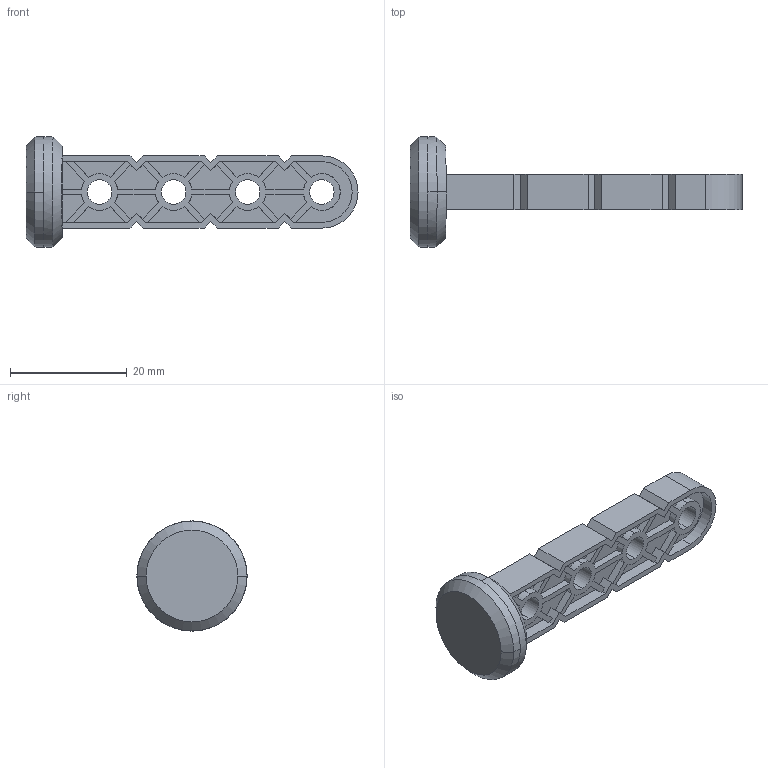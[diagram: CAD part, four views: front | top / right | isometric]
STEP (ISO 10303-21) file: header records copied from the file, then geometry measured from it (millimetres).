
FILE_DESCRIPTION (( 'STEP AP214' ), '1' );
FILE_NAME ('228-3167-020.STEP', '2021-02-18T19:07:38', ( '' ), ( '' ), 'SwSTEP 2.0', 'SolidWorks 2019', '' );
FILE_SCHEMA (( 'AUTOMOTIVE_DESIGN' ));
Length unit declared in the file: millimetre
Products named in the file (4): 228-3167-001 Rev7_low res model; 228-3167-002 Rev5; 228-3167-004 Rev5_Instruction; 228-3167-020
Assembly tree (3 placements, depth 2):
  228-3167-020
    228-3167-001 Rev7_low res model
    228-3167-002 Rev5
    228-3167-004 Rev5_Instruction
Bounding box: 56.9 x 18.9 x 18.9 mm (x, y, z)
Volume: 3986.1 mm3; surface area: 4706.5 mm2
Topology: 3 solids, 3 shells, 250 faces, 722 edges, 478 vertices
Faces by surface type: plane 173, cone 58, cylinder 13, torus 4, bspline 2
Entity records: 8888 total; most frequent: CARTESIAN_POINT 2188, ORIENTED_EDGE 1444, DIRECTION 1286, EDGE_CURVE 722, VECTOR 486, LINE 486, VERTEX_POINT 478, AXIS2_PLACEMENT_3D 400
